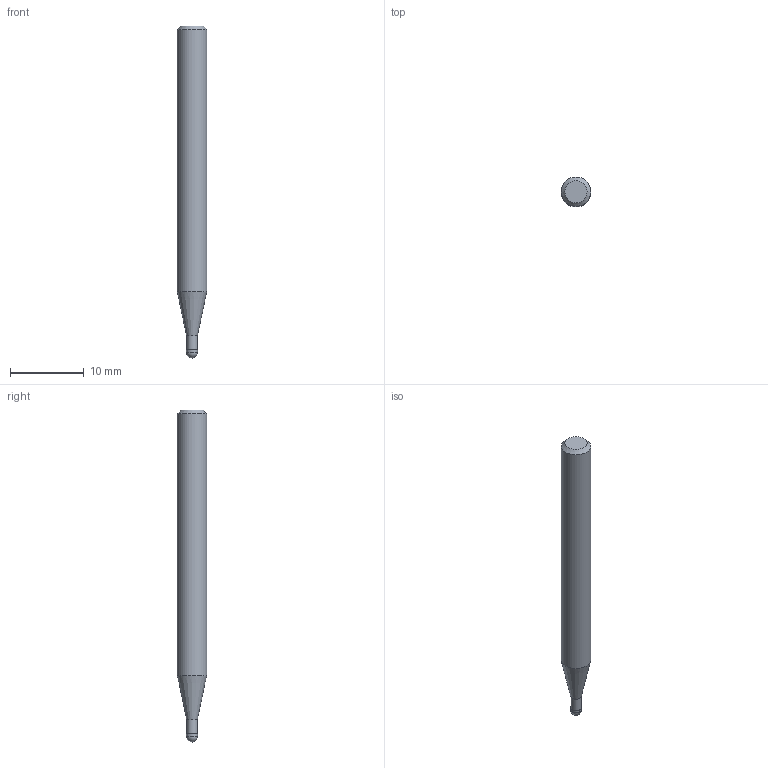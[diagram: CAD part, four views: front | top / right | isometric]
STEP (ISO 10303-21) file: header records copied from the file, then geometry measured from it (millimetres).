
FILE_DESCRIPTION((''),'2;1');
FILE_NAME('C:\Users\nsx150\AppData\Local\Temp\Mastercam 2021\AP8FW4WOPM\TEMP.step','2024-10-16T18:40:44',(''),(''),'STEP Write','Mastercam 2021 ... CNC Software, Inc.','');
FILE_SCHEMA(('AUTOMOTIVE_DESIGN'));
Length unit declared in the file: millimetre
Products named in the file (1): None
Bounding box: 4 x 4 x 45 mm (x, y, z)
Volume: 493.1 mm3; surface area: 530.7 mm2
Topology: 2 solids, 2 shells, 9 faces, 14 edges, 8 vertices
Faces by surface type: plane 3, cylinder 3, cone 2, sphere 1
Full cylindrical faces by diameter (mm): 1.45 x1, 1.5 x1, 4 x1
Entity records: 211 total; most frequent: DIRECTION 36, CARTESIAN_POINT 25, AXIS2_PLACEMENT_3D 18, ORIENTED_EDGE 14, EDGE_LOOP 14, STYLED_ITEM 12, ADVANCED_FACE 9, FACE_BOUND 8
